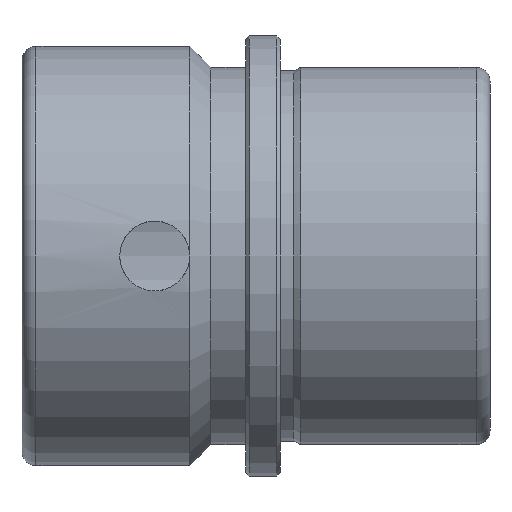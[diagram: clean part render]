
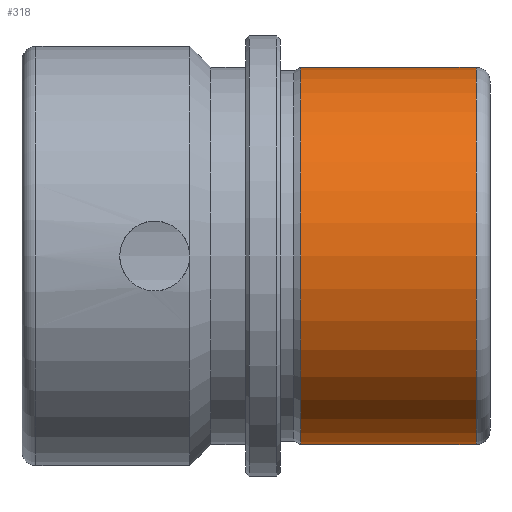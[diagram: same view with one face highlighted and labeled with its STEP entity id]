
A CAD part, front view. The second image highlights one B-rep face of the part: STEP entity #318.
In plain terms, the highlighted cylindrical face has radius 27 mm (diameter 54 mm), a full revolution.
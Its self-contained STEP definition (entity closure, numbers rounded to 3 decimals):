
#45=CIRCLE('',#372,27.);
#46=CIRCLE('',#373,27.);
#47=CIRCLE('',#375,27.);
#65=FACE_OUTER_BOUND('',#86,.T.);
#86=EDGE_LOOP('',(#245,#246,#247,#248,#249));
#102=LINE('',#622,#114);
#114=VECTOR('',#453,27.);
#142=VERTEX_POINT('',#615);
#143=VERTEX_POINT('',#617);
#144=VERTEX_POINT('',#621);
#177=EDGE_CURVE('',#142,#143,#45,.T.);
#178=EDGE_CURVE('',#143,#142,#46,.T.);
#179=EDGE_CURVE('',#143,#144,#102,.T.);
#180=EDGE_CURVE('',#144,#144,#47,.T.);
#245=ORIENTED_EDGE('',*,*,#178,.F.);
#246=ORIENTED_EDGE('',*,*,#179,.T.);
#247=ORIENTED_EDGE('',*,*,#180,.T.);
#248=ORIENTED_EDGE('',*,*,#179,.F.);
#249=ORIENTED_EDGE('',*,*,#177,.F.);
#285=CYLINDRICAL_SURFACE('',#374,27.);
#318=ADVANCED_FACE('',(#65),#285,.T.);
#372=AXIS2_PLACEMENT_3D('',#618,#447,#448);
#373=AXIS2_PLACEMENT_3D('',#619,#449,#450);
#374=AXIS2_PLACEMENT_3D('',#620,#451,#452);
#375=AXIS2_PLACEMENT_3D('',#623,#454,#455);
#447=DIRECTION('center_axis',(1.,0.,0.));
#448=DIRECTION('ref_axis',(0.,-1.,0.));
#449=DIRECTION('center_axis',(1.,0.,0.));
#450=DIRECTION('ref_axis',(0.,-1.,0.));
#451=DIRECTION('center_axis',(1.,0.,0.));
#452=DIRECTION('ref_axis',(0.,1.,0.));
#453=DIRECTION('',(-1.,0.,0.));
#454=DIRECTION('center_axis',(1.,0.,0.));
#455=DIRECTION('ref_axis',(0.,0.,-1.));
#615=CARTESIAN_POINT('',(65.,0.,27.));
#617=CARTESIAN_POINT('',(65.,-27.,0.));
#618=CARTESIAN_POINT('Origin',(65.,0.,0.));
#619=CARTESIAN_POINT('Origin',(65.,0.,0.));
#620=CARTESIAN_POINT('Origin',(53.45,0.,0.));
#621=CARTESIAN_POINT('',(39.9,-27.,0.));
#622=CARTESIAN_POINT('',(53.45,-27.,0.));
#623=CARTESIAN_POINT('Origin',(39.9,0.,0.));
